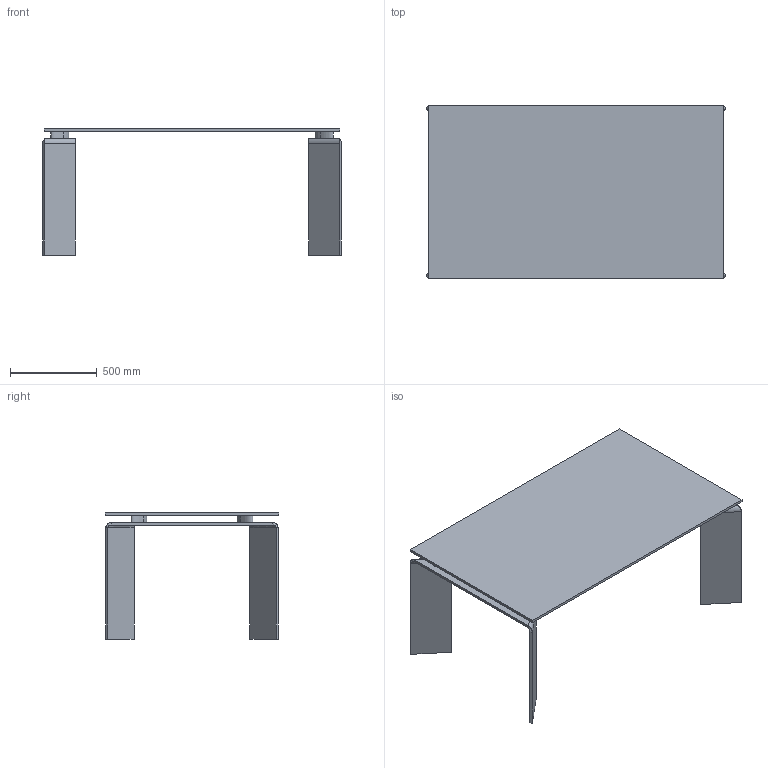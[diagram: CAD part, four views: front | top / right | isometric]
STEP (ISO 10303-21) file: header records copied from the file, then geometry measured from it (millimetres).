
FILE_DESCRIPTION(/* description */ (''),/* implementation_level */ '2;1');
FILE_NAME(/* name */ '1702 - Ray 170x100',/* time_stamp */ '2010-12-14T09:38:20+01:00',/* author */ (''),/* organization */ (''),/* preprocessor_version */ 'ST-DEVELOPER v10',/* originating_system */ '',/* authorisation */ '');
FILE_SCHEMA (('CONFIG_CONTROL_DESIGN'));
Length unit declared in the file: centimetre
Products named in the file (1): 1
Bounding box: 1719.21 x 1000 x 725 mm (x, y, z)
Volume: 39921805.5 mm3; surface area: 5527047.5 mm2
Topology: 7 solids, 7 shells, 66 faces, 124 edges, 72 vertices
Faces by surface type: plane 38, bspline 28
Entity records: 2168 total; most frequent: CARTESIAN_POINT 1226, ORIENTED_EDGE 248, EDGE_CURVE 124, B_SPLINE_CURVE_WITH_KNOTS 76, VERTEX_POINT 72, ADVANCED_FACE 66, FACE_OUTER_BOUND 66, EDGE_LOOP 66
